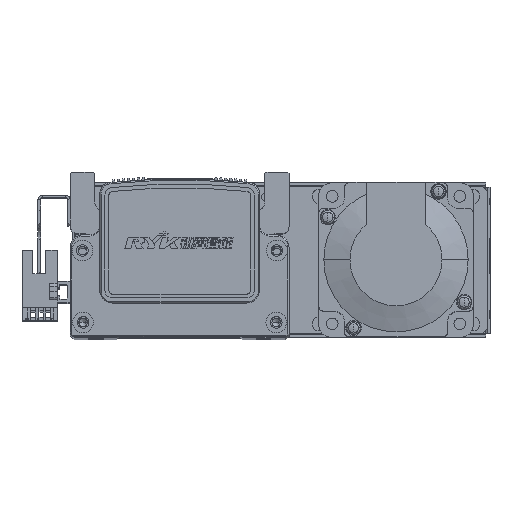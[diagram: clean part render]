
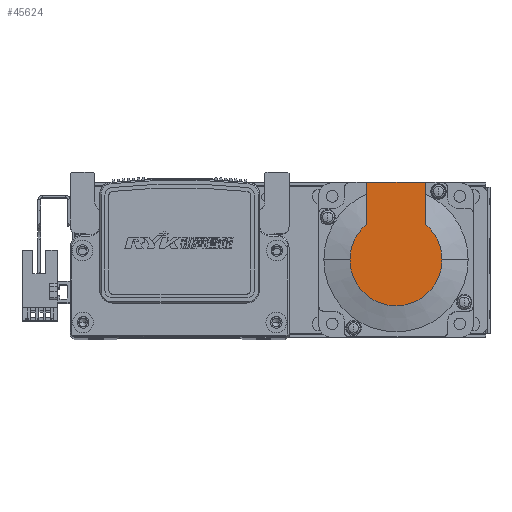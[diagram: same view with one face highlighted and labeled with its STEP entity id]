
A CAD part, top view. The second image highlights one B-rep face of the part: STEP entity #45624.
In plain terms, the highlighted planar face has unit normal (0, 0, 1) as drawn and (-1, 0, 0) by its records, which use the part's own axes.
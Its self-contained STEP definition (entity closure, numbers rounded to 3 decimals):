
#1031 = ORIENTED_EDGE ( 'NONE', *, *, #4269, .T. ) ;
#1032 = ORIENTED_EDGE ( 'NONE', *, *, #4600, .F. ) ;
#1041 = ORIENTED_EDGE ( 'NONE', *, *, #4545, .T. ) ;
#1054 = ORIENTED_EDGE ( 'NONE', *, *, #4605, .T. ) ;
#1058 = ORIENTED_EDGE ( 'NONE', *, *, #4594, .F. ) ;
#1196 = VERTEX_POINT ( 'NONE', #25483 ) ;
#1272 = VERTEX_POINT ( 'NONE', #25575 ) ;
#1340 = VERTEX_POINT ( 'NONE', #25532 ) ;
#2491 = EDGE_LOOP ( 'NONE', ( #1054, #1041, #39413, #1031, #1058, #1032 ) ) ;
#3947 = VERTEX_POINT ( 'NONE', #26041 ) ;
#4195 = EDGE_CURVE ( 'NONE', #1272, #1340, #5964, .T. ) ;
#4269 = EDGE_CURVE ( 'NONE', #1340, #1196, #6090, .T. ) ;
#4545 = EDGE_CURVE ( 'NONE', #3947, #1272, #6576, .T. ) ;
#4594 = EDGE_CURVE ( 'NONE', #51441, #1196, #6704, .T. ) ;
#4600 = EDGE_CURVE ( 'NONE', #51388, #51441, #6705, .T. ) ;
#4605 = EDGE_CURVE ( 'NONE', #51388, #3947, #6729, .T. ) ;
#4743 = AXIS2_PLACEMENT_3D ( 'NONE', #9318, #9299, #9275 ) ;
#4801 = AXIS2_PLACEMENT_3D ( 'NONE', #9786, #9780, #9788 ) ;
#4826 = AXIS2_PLACEMENT_3D ( 'NONE', #15456, #15458, #15460 ) ;
#5964 = CIRCLE ( 'NONE', #4743, 17.881 ) ;
#6090 = CIRCLE ( 'NONE', #4801, 17.881 ) ;
#6576 = CIRCLE ( 'NONE', #4826, 17.881 ) ;
#6666 = VECTOR ( 'NONE', #15630, 1000. ) ;
#6672 = VECTOR ( 'NONE', #15633, 1000. ) ;
#6704 = LINE ( 'NONE', #15596, #6728 ) ;
#6705 = LINE ( 'NONE', #15615, #6672 ) ;
#6728 = VECTOR ( 'NONE', #15583, 1000. ) ;
#6729 = LINE ( 'NONE', #15618, #6666 ) ;
#9275 = DIRECTION ( 'NONE',  ( 0., 0., -1. ) ) ;
#9299 = DIRECTION ( 'NONE',  ( -1., 0., 0. ) ) ;
#9318 = CARTESIAN_POINT ( 'NONE',  ( -99., 0., 0. ) ) ;
#9780 = DIRECTION ( 'NONE',  ( -1., 0., 0. ) ) ;
#9786 = CARTESIAN_POINT ( 'NONE',  ( -99., 0., 0. ) ) ;
#9788 = DIRECTION ( 'NONE',  ( 0., 0., -1. ) ) ;
#15456 = CARTESIAN_POINT ( 'NONE',  ( -99., 0., 0. ) ) ;
#15458 = DIRECTION ( 'NONE',  ( -1., 0., 0. ) ) ;
#15460 = DIRECTION ( 'NONE',  ( 0., 0., -1. ) ) ;
#15583 = DIRECTION ( 'NONE',  ( 0., -1., 0. ) ) ;
#15596 = CARTESIAN_POINT ( 'NONE',  ( -99., 0., 11.45 ) ) ;
#15615 = CARTESIAN_POINT ( 'NONE',  ( -99., 30., 25. ) ) ;
#15618 = CARTESIAN_POINT ( 'NONE',  ( -99., -8.941, -11.45 ) ) ;
#15630 = DIRECTION ( 'NONE',  ( 0., -1., 0. ) ) ;
#15633 = DIRECTION ( 'NONE',  ( 0., 0., 1. ) ) ;
#25483 = CARTESIAN_POINT ( 'NONE',  ( -99., 13.735, 11.45 ) ) ;
#25532 = CARTESIAN_POINT ( 'NONE',  ( -99., 0., 17.881 ) ) ;
#25575 = CARTESIAN_POINT ( 'NONE',  ( -99., 0., -17.881 ) ) ;
#26041 = CARTESIAN_POINT ( 'NONE',  ( -99., 13.735, -11.45 ) ) ;
#28486 = FACE_OUTER_BOUND ( 'NONE', #2491, .T. ) ;
#31366 = AXIS2_PLACEMENT_3D ( 'NONE', #35192, #35209, #35199 ) ;
#35192 = CARTESIAN_POINT ( 'NONE',  ( -99., -8.941, 0. ) ) ;
#35194 = PLANE ( 'NONE',  #31366 ) ;
#35199 = DIRECTION ( 'NONE',  ( 0., 0., 1. ) ) ;
#35209 = DIRECTION ( 'NONE',  ( -1., 0., 0. ) ) ;
#39413 = ORIENTED_EDGE ( 'NONE', *, *, #4195, .T. ) ;
#40115 = CARTESIAN_POINT ( 'NONE',  ( -99., 30., -11.45 ) ) ;
#40834 = CARTESIAN_POINT ( 'NONE',  ( -99., 30., 11.45 ) ) ;
#45624 = ADVANCED_FACE ( 'NONE', ( #28486 ), #35194, .T. ) ;
#51388 = VERTEX_POINT ( 'NONE', #40115 ) ;
#51441 = VERTEX_POINT ( 'NONE', #40834 ) ;
